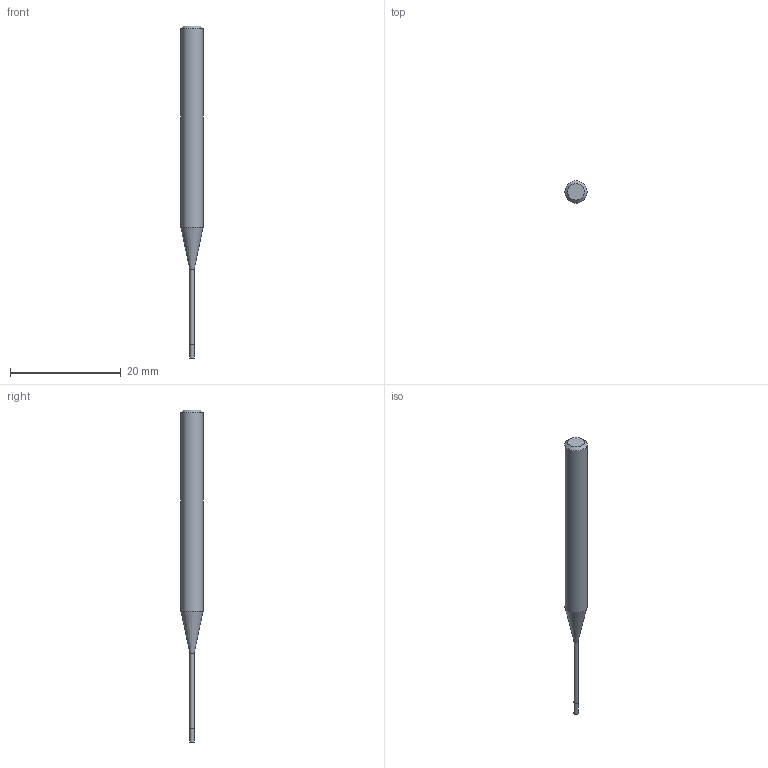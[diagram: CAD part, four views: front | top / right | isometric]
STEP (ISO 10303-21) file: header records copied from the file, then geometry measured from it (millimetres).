
FILE_DESCRIPTION((''),'2;1');
FILE_NAME('C:\Users\nsx150\Desktop\RSE230_20210427\01-00644-00816 RSE230 D0_8X2_4X16.step','2021-05-07T14:53:09',(''),(''),'STEP Write','Mastercam 2021 ... CNC Software, Inc.','');
FILE_SCHEMA(('AUTOMOTIVE_DESIGN'));
Length unit declared in the file: millimetre
Products named in the file (1): None
Bounding box: 4 x 4 x 60 mm (x, y, z)
Volume: 502.2 mm3; surface area: 563.9 mm2
Topology: 2 solids, 2 shells, 9 faces, 12 edges, 7 vertices
Faces by surface type: plane 4, cylinder 3, cone 2
Full cylindrical faces by diameter (mm): 0.76 x1, 0.8 x1, 4 x1
Entity records: 211 total; most frequent: DIRECTION 36, CARTESIAN_POINT 25, AXIS2_PLACEMENT_3D 18, ORIENTED_EDGE 14, EDGE_LOOP 14, STYLED_ITEM 12, ADVANCED_FACE 9, FACE_BOUND 8
